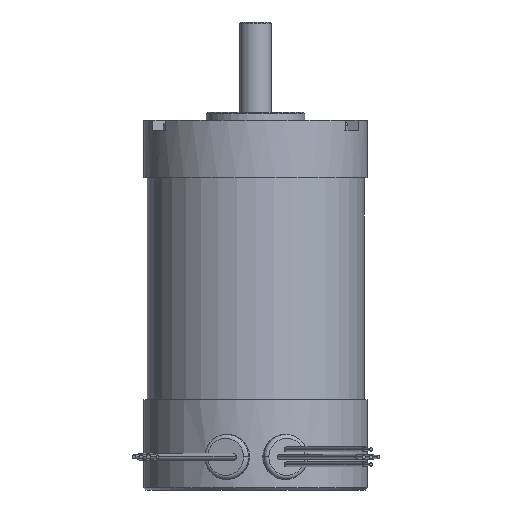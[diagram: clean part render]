
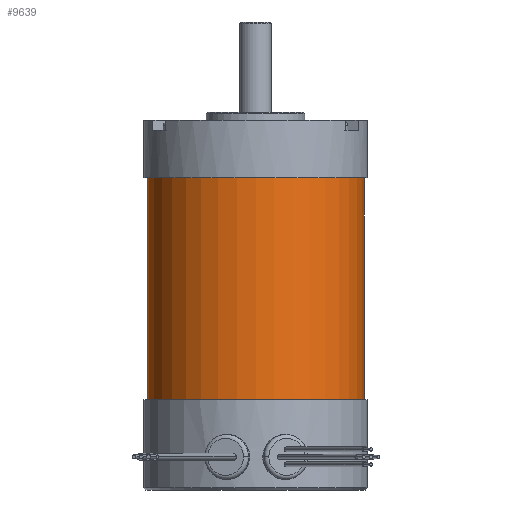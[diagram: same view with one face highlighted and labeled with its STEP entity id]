
A CAD part, front view. The second image highlights one B-rep face of the part: STEP entity #9639.
In plain terms, the highlighted cylindrical face has radius 27.495 mm (diameter 54.991 mm), a partial arc.
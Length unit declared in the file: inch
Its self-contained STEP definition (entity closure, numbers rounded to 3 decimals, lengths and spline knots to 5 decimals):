
#676 = DIRECTION ( 'NONE',  ( -1., 0., 0. ) ) ;
#760 = CARTESIAN_POINT ( 'NONE',  ( -1.0825, 0., -2.79 ) ) ;
#896 = CARTESIAN_POINT ( 'NONE',  ( 1.0825, 0., -2.79 ) ) ;
#1099 = LINE ( 'NONE', #760, #11733 ) ;
#1232 = EDGE_LOOP ( 'NONE', ( #9561, #9638, #10370, #3835 ) ) ;
#1995 = DIRECTION ( 'NONE',  ( 0., 0., 1. ) ) ;
#2464 = VERTEX_POINT ( 'NONE', #3096 ) ;
#2722 = CARTESIAN_POINT ( 'NONE',  ( 0., 0., -0.575 ) ) ;
#3096 = CARTESIAN_POINT ( 'NONE',  ( -1.0825, 0., -2.79 ) ) ;
#3105 = DIRECTION ( 'NONE',  ( 1., 0., 0. ) ) ;
#3477 = EDGE_CURVE ( 'NONE', #2464, #6653, #1099, .T. ) ;
#3549 = EDGE_CURVE ( 'NONE', #10913, #6814, #9345, .T. ) ;
#3786 = DIRECTION ( 'NONE',  ( -1., 0., 0. ) ) ;
#3835 = ORIENTED_EDGE ( 'NONE', *, *, #9925, .T. ) ;
#4509 = AXIS2_PLACEMENT_3D ( 'NONE', #5170, #1995, #3105 ) ;
#5045 = EDGE_CURVE ( 'NONE', #10913, #2464, #6714, .T. ) ;
#5170 = CARTESIAN_POINT ( 'NONE',  ( 0., 0., -2.79 ) ) ;
#6056 = FACE_OUTER_BOUND ( 'NONE', #1232, .T. ) ;
#6188 = CARTESIAN_POINT ( 'NONE',  ( 1.0825, 0., -2.79 ) ) ;
#6653 = VERTEX_POINT ( 'NONE', #12453 ) ;
#6714 = CIRCLE ( 'NONE', #8800, 1.0825 ) ;
#6814 = VERTEX_POINT ( 'NONE', #9564 ) ;
#6911 = DIRECTION ( 'NONE',  ( 0., 0., -1. ) ) ;
#7124 = DIRECTION ( 'NONE',  ( 0., 0., 1. ) ) ;
#8800 = AXIS2_PLACEMENT_3D ( 'NONE', #13017, #6911, #676 ) ;
#8944 = CIRCLE ( 'NONE', #13102, 1.0825 ) ;
#9071 = DIRECTION ( 'NONE',  ( 0., 0., 1. ) ) ;
#9345 = LINE ( 'NONE', #896, #12032 ) ;
#9561 = ORIENTED_EDGE ( 'NONE', *, *, #3477, .F. ) ;
#9564 = CARTESIAN_POINT ( 'NONE',  ( 1.0825, 0., -0.575 ) ) ;
#9638 = ORIENTED_EDGE ( 'NONE', *, *, #5045, .F. ) ;
#9639 = ADVANCED_FACE ( 'NONE', ( #6056 ), #12612, .T. ) ;
#9914 = DIRECTION ( 'NONE',  ( 0., 0., -1. ) ) ;
#9925 = EDGE_CURVE ( 'NONE', #6814, #6653, #8944, .T. ) ;
#10370 = ORIENTED_EDGE ( 'NONE', *, *, #3549, .T. ) ;
#10913 = VERTEX_POINT ( 'NONE', #6188 ) ;
#11733 = VECTOR ( 'NONE', #9071, 39.37008 ) ;
#12032 = VECTOR ( 'NONE', #7124, 39.37008 ) ;
#12453 = CARTESIAN_POINT ( 'NONE',  ( -1.0825, 0., -0.575 ) ) ;
#12612 = CYLINDRICAL_SURFACE ( 'NONE', #4509, 1.0825 ) ;
#13017 = CARTESIAN_POINT ( 'NONE',  ( 0., 0., -2.79 ) ) ;
#13102 = AXIS2_PLACEMENT_3D ( 'NONE', #2722, #9914, #3786 ) ;
